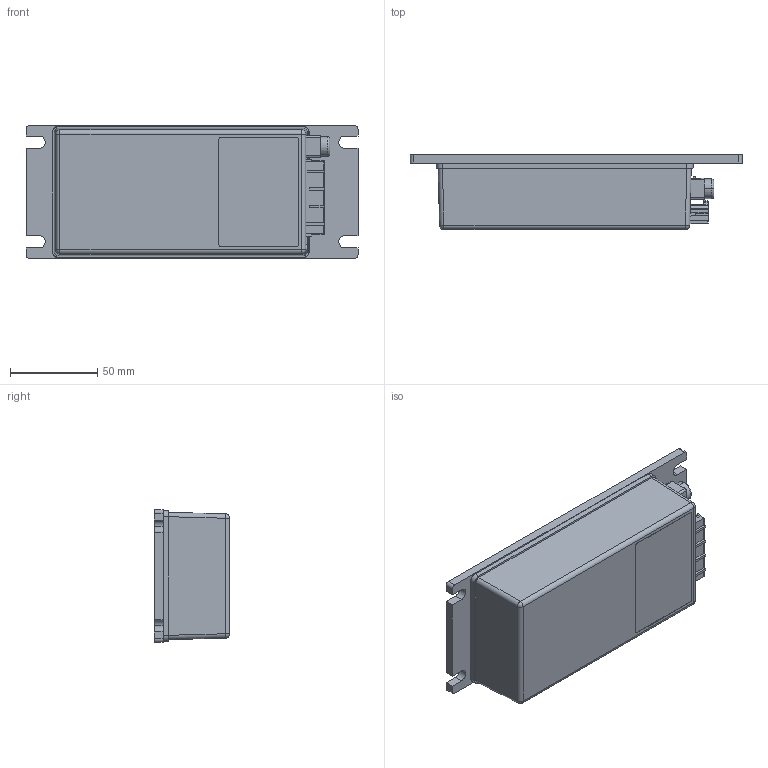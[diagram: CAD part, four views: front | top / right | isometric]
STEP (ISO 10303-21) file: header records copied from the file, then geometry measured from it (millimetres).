
FILE_DESCRIPTION (( 'STEP AP214' ), '1' );
FILE_NAME ('RMOD300(360)-EW(UW)_F_MO_3D_20210414.STEP', '2021-04-14T09:43:39', ( '' ), ( '' ), 'SwSTEP 2.0', 'SolidWorks 2019', '' );
FILE_SCHEMA (( 'AUTOMOTIVE_DESIGN' ));
Length unit declared in the file: millimetre
Products named in the file (1): RMOD300(360)-EW(UW)_F_MO_3D_20210414
Bounding box: 190 x 43 x 76 mm (x, y, z)
Surface area: 92175.5 mm2 (no closed solid volume)
Topology: 0 solids, 9 shells, 784 faces, 2099 edges, 1346 vertices
Faces by surface type: plane 509, cylinder 167, cone 56, sphere 22, bspline 16, torus 14
Entity records: 34692 total; most frequent: CARTESIAN_POINT 6734, ORIENTED_EDGE 4146, DIRECTION 3736, EDGE_CURVE 2083, LINE 1534, VECTOR 1534, VERTEX_POINT 1346, AXIS2_PLACEMENT_3D 1101
